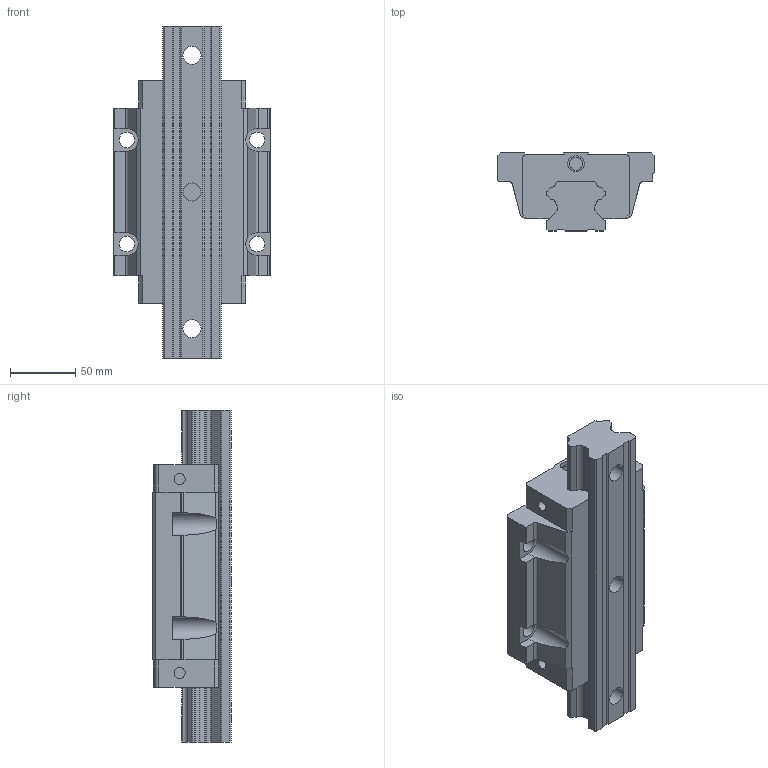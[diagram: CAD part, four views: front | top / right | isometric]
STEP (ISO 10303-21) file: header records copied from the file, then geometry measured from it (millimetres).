
FILE_DESCRIPTION((''),'2;1');
FILE_NAME('HGW45HC_ASM','2008-07-11T',('immo'),(''),'PRO/ENGINEER BY PARAMETRIC TECHNOLOGY CORPORATION, 2004360','PRO/ENGINEER BY PARAMETRIC TECHNOLOGY CORPORATION, 2004360','');
FILE_SCHEMA(('CONFIG_CONTROL_DESIGN'));
Length unit declared in the file: millimetre
Products named in the file (4): HGW45H_2; HGR45_2; HGW45H_ASM_1_ASM; HGW45HC_ASM
Assembly tree (3 placements, depth 3):
  HGW45HC_ASM
    HGW45H_ASM_1_ASM
      HGW45H_2
      HGR45_2
Bounding box: 120 x 60 x 255 mm (x, y, z)
Volume: 973884.8 mm3; surface area: 129085.3 mm2
Topology: 2 solids, 2 shells, 222 faces, 645 edges, 442 vertices
Faces by surface type: plane 132, cylinder 90
Entity records: 7619 total; most frequent: CARTESIAN_POINT 1462, ORIENTED_EDGE 1290, DIRECTION 1243, EDGE_CURVE 645, VECTOR 445, LINE 445, VERTEX_POINT 442, AXIS2_PLACEMENT_3D 399
